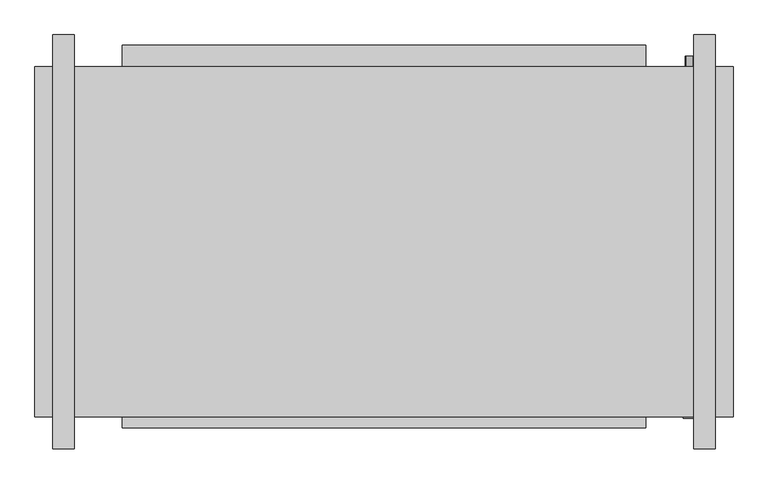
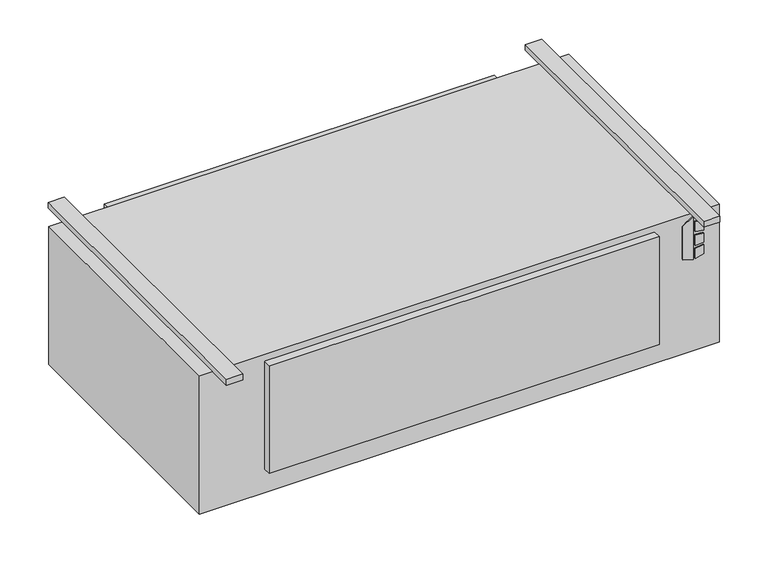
"""IFC4 building model written with IfcOpenShell, lengths in millimetres: proxy geometry, Concealed_High_Capacity_Horizontal_Cabinet_Fan_Coil_Unit_-_HXY_-_IEC_-_4-Pipe_RH_2022 : Size 20 - 277v/60Hz/1Ph - 6/2 Coil."""

from ifc_helpers import new_model, si_unit, point, frame, frame_2d, origin, origin_with_axes, place, context, project, spatial, polyline, circle_curve, trimmed, segment, composite_curve, outline, extrude, source, transform, mapped, element, save


def mechanical_equipment_b50143e9(model_context):
    return source(origin(), model_context, "Body", "SweptSolid", [
        extrude(outline(polyline([(-142.4519297, 849.3868862), (-152.4, 881.5602728), (-10.2290756, 881.5602728), (-33.2510817, 849.3868862), (-142.4519297, 849.3868862)])), frame((0.0, -649.2875, 0.0), z_axis=(0.0, 1.0, 0.0), x_axis=(0.0, 0.0, 1.0)), (0.0, 0.0, 1.0), 3.175),
        extrude(outline(polyline([(-63.4526443, 888.3186058), (-66.6550368, 914.4), (-37.4261958, 914.4), (-29.3617807, 888.3186058), (-63.4526443, 888.3186058)])), frame((0.0, -649.2875, 0.0), z_axis=(0.0, 1.0, 0.0), x_axis=(0.0, 0.0, 1.0)), (0.0, 0.0, 1.0), 3.175),
        extrude(outline(polyline([(-115.3161712, 914.4), (-118.9816721, 888.3186058), (-152.4, 888.3186058), (-143.7657628, 914.4), (-115.3161712, 914.4)])), frame((0.0, -649.2875, 0.0), z_axis=(0.0, 1.0, 0.0), x_axis=(0.0, 0.0, 1.0)), (0.0, 0.0, 1.0), 3.175),
        extrude(outline(polyline([(-76.0010097, 914.4), (-73.7191834, 888.3186058), (-109.6567319, 888.3186058), (-106.9154669, 914.4), (-76.0010097, 914.4)])), frame((0.0, -649.2875, 0.0), z_axis=(0.0, 1.0, 0.0), x_axis=(0.0, 0.0, 1.0)), (0.0, 0.0, 1.0), 3.175),
        extrude(outline(composite_curve([segment(trimmed(circle_curve(frame_2d((-406.4, 863.6)), 9.525), [point((-406.4, 854.075))], [point((-406.4, 873.125))], False, "CARTESIAN"), True, "CONTINUOUS"), segment(trimmed(circle_curve(frame_2d((-406.4, 863.6)), 9.525), [point((-406.4, 873.125))], [point((-406.4, 854.075))], False, "CARTESIAN"), True, "CONTINUOUS")], self_intersect=False)), frame((0.0, 169.8625, 0.0), z_axis=(0.0, 1.0, 0.0), x_axis=(0.0, 0.0, 1.0)), (0.0, 0.0, 1.0), 25.4),
        extrude(outline(composite_curve([segment(trimmed(circle_curve(frame_2d((-330.2, 863.6)), 7.9375), [point((-330.2, 855.6625))], [point((-330.2, 871.5375))], False, "CARTESIAN"), True, "CONTINUOUS"), segment(trimmed(circle_curve(frame_2d((-330.2, 863.6)), 7.9375), [point((-330.2, 871.5375))], [point((-330.2, 855.6625))], False, "CARTESIAN"), True, "CONTINUOUS")], self_intersect=False)), frame((0.0, 169.8625, 0.0), z_axis=(0.0, 1.0, 0.0), x_axis=(0.0, 0.0, 1.0)), (0.0, 0.0, 1.0), 25.4),
        extrude(outline(composite_curve([segment(trimmed(circle_curve(frame_2d((-254.0, 863.6)), 7.9375), [point((-254.0, 855.6625))], [point((-254.0, 871.5375))], False, "CARTESIAN"), True, "CONTINUOUS"), segment(trimmed(circle_curve(frame_2d((-254.0, 863.6)), 7.9375), [point((-254.0, 871.5375))], [point((-254.0, 855.6625))], False, "CARTESIAN"), True, "CONTINUOUS")], self_intersect=False)), frame((0.0, 169.8625, 0.0), z_axis=(0.0, 1.0, 0.0), x_axis=(0.0, 0.0, 1.0)), (0.0, 0.0, 1.0), 25.4),
        extrude(outline(composite_curve([segment(trimmed(circle_curve(frame_2d((-177.8, 863.6)), 7.9375), [point((-177.8, 855.6625))], [point((-177.8, 871.5375))], False, "CARTESIAN"), True, "CONTINUOUS"), segment(trimmed(circle_curve(frame_2d((-177.8, 863.6)), 7.9375), [point((-177.8, 871.5375))], [point((-177.8, 855.6625))], False, "CARTESIAN"), True, "CONTINUOUS")], self_intersect=False)), frame((0.0, 169.8625, 0.0), z_axis=(0.0, 1.0, 0.0), x_axis=(0.0, 0.0, 1.0)), (0.0, 0.0, 1.0), 25.4),
        extrude(outline(composite_curve([segment(trimmed(circle_curve(frame_2d((-101.6, 863.6)), 7.9375), [point((-101.6, 855.6625))], [point((-101.6, 871.5375))], False, "CARTESIAN"), True, "CONTINUOUS"), segment(trimmed(circle_curve(frame_2d((-101.6, 863.6)), 7.9375), [point((-101.6, 871.5375))], [point((-101.6, 855.6625))], False, "CARTESIAN"), True, "CONTINUOUS")], self_intersect=False)), frame((0.0, 169.8625, 0.0), z_axis=(0.0, 1.0, 0.0), x_axis=(0.0, 0.0, 1.0)), (0.0, 0.0, 1.0), 25.4),
        extrude(outline(polyline([(965.2, 169.8625), (965.2, -646.1125), (-660.4, -646.1125), (-660.4, 169.8625), (965.2, 169.8625)])), frame((0.0, 0.0, -457.2), z_axis=(0.0, 0.0, 1.0), x_axis=(1.0, 0.0, 0.0)), (0.0, 0.0, 1.0), 457.2),
        extrude(outline(polyline([(-457.2, 220.6625), (762.0, 220.6625), (762.0, 169.8625), (-457.2, 169.8625), (-457.2, 220.6625)])), frame((0.0, 0.0, -377.825), z_axis=(0.0, 0.0, 1.0), x_axis=(1.0, 0.0, 0.0)), (0.0, 0.0, 1.0), 349.25),
        extrude(outline(polyline([(-568.325, 244.475), (-568.325, -720.725), (-619.125, -720.725), (-619.125, 244.475), (-568.325, 244.475)])), origin_with_axes(), (0.0, 0.0, 1.0), 19.05),
        extrude(outline(polyline([(923.925, 244.475), (923.925, -720.725), (873.125, -720.725), (873.125, 244.475), (923.925, 244.475)])), origin_with_axes(), (0.0, 0.0, 1.0), 19.05),
        extrude(outline(polyline([(762.0, -671.5125), (-457.2, -671.5125), (-457.2, -646.1125), (762.0, -646.1125), (762.0, -671.5125)])), frame((0.0, 0.0, -377.825), z_axis=(0.0, 0.0, 1.0), x_axis=(1.0, 0.0, 0.0)), (0.0, 0.0, 1.0), 355.6),
    ])


if __name__ == "__main__":
    model = new_model("IFC4")
    model_context = context("Model", 3, world=origin())
    ifc_project = project(units=[si_unit("LENGTHUNIT", "METRE", prefix="MILLI")], contexts=[model_context])
    site = spatial("IfcSite", under=ifc_project)
    building = spatial("IfcBuilding", under=site)
    placement = place(None, origin())
    mechanical_equipment_shape = mechanical_equipment_b50143e9(model_context)
    element("IfcBuildingElementProxy", 1, Name="Concealed_High_Capacity_Horizontal_Cabinet_Fan_Coil_Unit_-_HXY_-_IEC_-_4-Pipe_RH_2022 : Size 20 - 277v/60Hz/1Ph - 6/2 Coil", ObjectType="Concealed_High_Capacity_Horizontal_Cabinet_Fan_Coil_Unit_-_HXY_-_IEC_-_4-Pipe_RH_2022 : Size 20 - 277v/60Hz/1Ph - 6/2 Coil", at=placement, inside=building, context=model_context, shape_type="MappedRepresentation", body=[
        mapped(mechanical_equipment_shape, transform((0.0, 0.0, 0.0), x_axis=(1.0, 0.0, 0.0), y_axis=(0.0, 1.0, 0.0), z_axis=(0.0, 0.0, 1.0))),
    ])
    save(model, "model.ifc")
